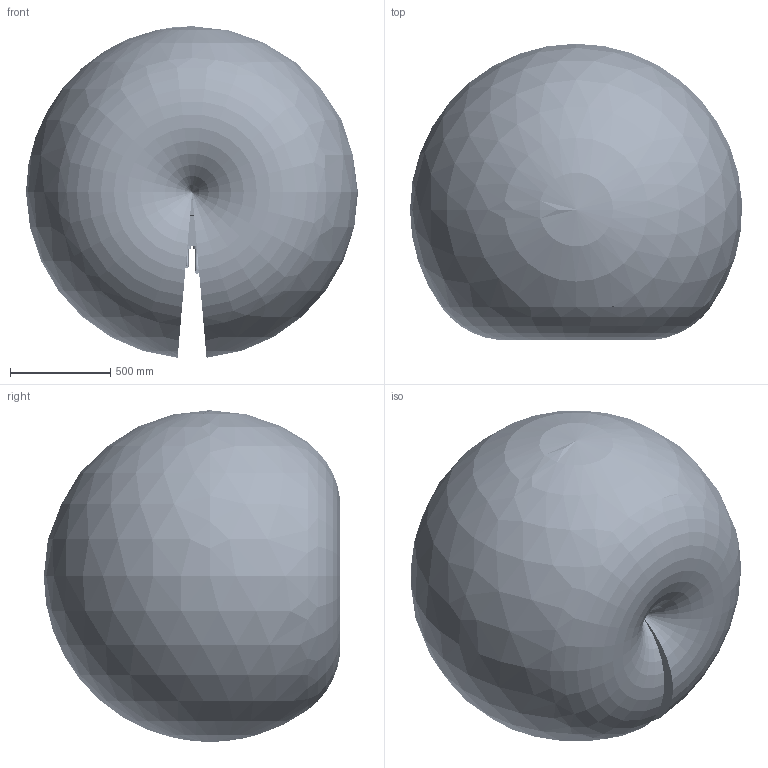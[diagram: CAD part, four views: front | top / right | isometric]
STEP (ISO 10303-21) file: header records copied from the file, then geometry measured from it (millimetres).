
FILE_DESCRIPTION (( 'STEP AP203' ), '1' );
FILE_NAME ('Mantis830-A6褫雄耀倰.STEP', '2024-04-25T01:31:25', ( '' ), ( '' ), 'SwSTEP 2.0', 'SolidWorks 2021', '' );
FILE_SCHEMA (( 'CONFIG_CONTROL_DESIGN' ));
Length unit declared in the file: millimetre
Products named in the file (9): 葩璃 J3^Mantis830-A6褫雄耀倰; 葩璃 J1^Mantis830-A6褫雄耀倰; 复件 工作范围-Mantis830^Mantis830-A6可动模型; Mantis830-A6褫雄耀倰; 复件 基座^Mantis830-A6可动模型; 葩璃 J2^Mantis830-A6褫雄耀倰; 葩璃 J4^Mantis830-A6褫雄耀倰; 葩璃 J6^Mantis830-A6褫雄耀倰; 葩璃 J5^Mantis830-A6褫雄耀倰
Assembly tree (8 placements, depth 2):
  Mantis830-A6褫雄耀倰
    复件 基座^Mantis830-A6可动模型
    葩璃 J1^Mantis830-A6褫雄耀倰
    葩璃 J2^Mantis830-A6褫雄耀倰
    葩璃 J3^Mantis830-A6褫雄耀倰
    葩璃 J4^Mantis830-A6褫雄耀倰
    葩璃 J5^Mantis830-A6褫雄耀倰
    葩璃 J6^Mantis830-A6褫雄耀倰
    复件 工作范围-Mantis830^Mantis830-A6可动模型
Bounding box: 1653.03 x 1475.97 x 1650.84 mm (x, y, z)
Volume: 2198246471.6 mm3; surface area: 13909973.6 mm2
Topology: 407 solids, 439 shells, 13311 faces, 34031 edges, 20957 vertices
Faces by surface type: cylinder 4774, plane 3962, cone 1720, torus 1403, bspline 1007, sphere 445
Entity records: 486499 total; most frequent: CARTESIAN_POINT 172889, DIRECTION 67712, ORIENTED_EDGE 63654, EDGE_CURVE 31827, AXIS2_PLACEMENT_3D 27754, VERTEX_POINT 20325, EDGE_LOOP 15542, CIRCLE 15439
